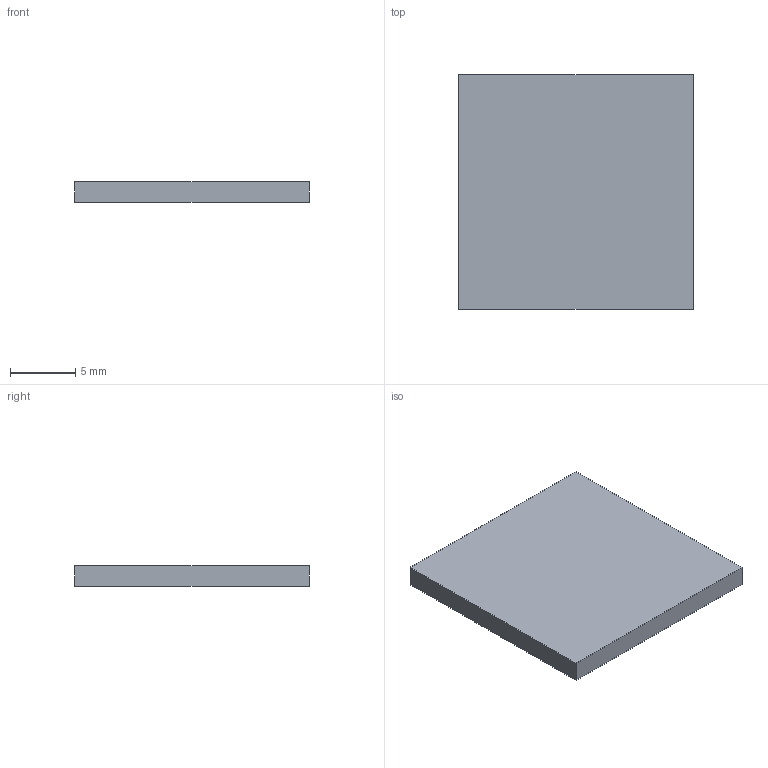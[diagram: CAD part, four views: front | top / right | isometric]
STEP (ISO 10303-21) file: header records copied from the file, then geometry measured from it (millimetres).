
FILE_DESCRIPTION(('Open CASCADE Model'),'2;1');
FILE_NAME('Open CASCADE Shape Model','2026-10-17T17:22:12',('Author'),( 'Open CASCADE'),'Open CASCADE STEP processor 7.9','Open CASCADE 7.9' ,'Unknown');
FILE_SCHEMA(('AUTOMOTIVE_DESIGN { 1 0 10303 214 1 1 1 1 }'));
Length unit declared in the file: millimetre
Products named in the file (1): Open CASCADE STEP translator 7.9 6
Bounding box: 18 x 18 x 1.6 mm (x, y, z)
Volume: 518.4 mm3; surface area: 763.2 mm2
Topology: 1 solids, 1 shells, 6 faces, 12 edges, 8 vertices
Faces by surface type: plane 6
Entity records: 322 total; most frequent: CARTESIAN_POINT 51, DIRECTION 50, LINE 36, VECTOR 36, ORIENTED_EDGE 24, PCURVE 24, DEFINITIONAL_REPRESENTATION 24, EDGE_CURVE 12
